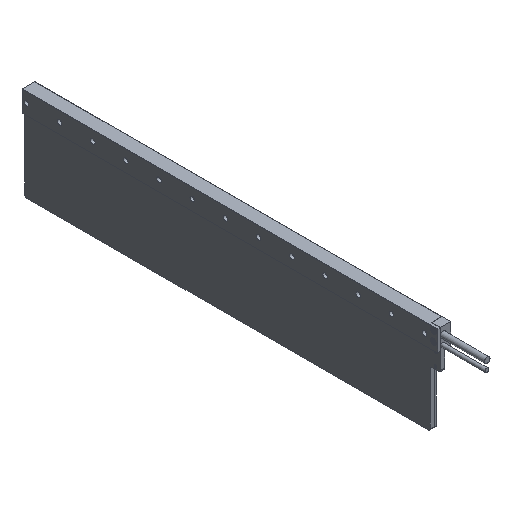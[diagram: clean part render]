
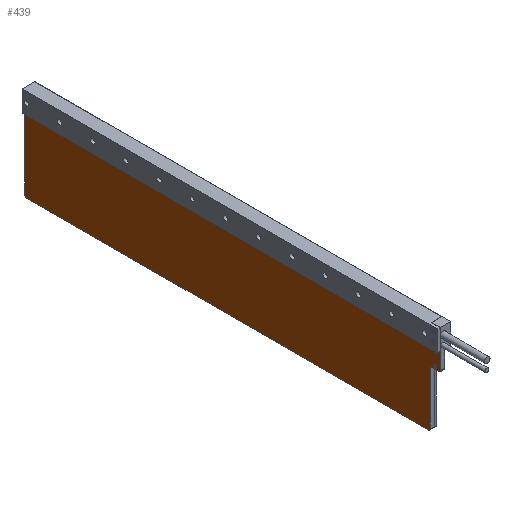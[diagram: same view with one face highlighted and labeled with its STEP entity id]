
A CAD part, isometric view. The second image highlights one B-rep face of the part: STEP entity #439.
In plain terms, the highlighted planar face has unit normal (-1, 0, 0) as drawn and (0, 0, -1) by its records, which use the part's own axes.
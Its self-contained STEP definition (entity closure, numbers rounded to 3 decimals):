
#439 = ADVANCED_FACE( '', ( #889, #890, #891 ), #892, .T. );
#889 = FACE_BOUND( '', #1574, .T. );
#890 = FACE_BOUND( '', #1575, .T. );
#891 = FACE_OUTER_BOUND( '', #1576, .T. );
#892 = PLANE( '', #1577 );
#1574 = EDGE_LOOP( '', ( #2802 ) );
#1575 = EDGE_LOOP( '', ( #2803 ) );
#1576 = EDGE_LOOP( '', ( #2804, #2805, #2806, #2807, #2808, #2809, #2810, #2811, #2812, #2813 ) );
#1577 = AXIS2_PLACEMENT_3D( '', #2814, #2815, #2816 );
#2802 = ORIENTED_EDGE( '', *, *, #4148, .F. );
#2803 = ORIENTED_EDGE( '', *, *, #4331, .F. );
#2804 = ORIENTED_EDGE( '', *, *, #4332, .T. );
#2805 = ORIENTED_EDGE( '', *, *, #4333, .T. );
#2806 = ORIENTED_EDGE( '', *, *, #4158, .F. );
#2807 = ORIENTED_EDGE( '', *, *, #4334, .F. );
#2808 = ORIENTED_EDGE( '', *, *, #4335, .F. );
#2809 = ORIENTED_EDGE( '', *, *, #4336, .T. );
#2810 = ORIENTED_EDGE( '', *, *, #4137, .F. );
#2811 = ORIENTED_EDGE( '', *, *, #4251, .F. );
#2812 = ORIENTED_EDGE( '', *, *, #4337, .T. );
#2813 = ORIENTED_EDGE( '', *, *, #4338, .T. );
#2814 = CARTESIAN_POINT( '', ( -85., 476., -4.1 ) );
#2815 = DIRECTION( '', ( 0., 0., -1. ) );
#2816 = DIRECTION( '', ( -1., 0., 0. ) );
#4137 = EDGE_CURVE( '', #6006, #6008, #6009, .T. );
#4148 = EDGE_CURVE( '', #6027, #6027, #6028, .T. );
#4158 = EDGE_CURVE( '', #6045, #6046, #6047, .T. );
#4251 = EDGE_CURVE( '', #6196, #6006, #6198, .T. );
#4331 = EDGE_CURVE( '', #6325, #6325, #6326, .T. );
#4332 = EDGE_CURVE( '', #6327, #6328, #6329, .T. );
#4333 = EDGE_CURVE( '', #6328, #6046, #6330, .T. );
#4334 = EDGE_CURVE( '', #6331, #6045, #6332, .T. );
#4335 = EDGE_CURVE( '', #6333, #6331, #6334, .T. );
#4336 = EDGE_CURVE( '', #6333, #6008, #6335, .T. );
#4337 = EDGE_CURVE( '', #6196, #6336, #6337, .T. );
#4338 = EDGE_CURVE( '', #6336, #6327, #6338, .T. );
#6006 = VERTEX_POINT( '', #7370 );
#6008 = VERTEX_POINT( '', #7373 );
#6009 = LINE( '', #7374, #7375 );
#6027 = VERTEX_POINT( '', #7419 );
#6028 = CIRCLE( '', #7420, 1.5 );
#6045 = VERTEX_POINT( '', #7461 );
#6046 = VERTEX_POINT( '', #7462 );
#6047 = LINE( '', #7463, #7464 );
#6196 = VERTEX_POINT( '', #7713 );
#6198 = LINE( '', #7716, #7717 );
#6325 = VERTEX_POINT( '', #7958 );
#6326 = CIRCLE( '', #7959, 1.5 );
#6327 = VERTEX_POINT( '', #7960 );
#6328 = VERTEX_POINT( '', #7961 );
#6329 = LINE( '', #7962, #7963 );
#6330 = CIRCLE( '', #7964, 2. );
#6331 = VERTEX_POINT( '', #7965 );
#6332 = CIRCLE( '', #7966, 2. );
#6333 = VERTEX_POINT( '', #7967 );
#6334 = LINE( '', #7968, #7969 );
#6335 = CIRCLE( '', #7970, 2. );
#6336 = VERTEX_POINT( '', #7971 );
#6337 = LINE( '', #7972, #7973 );
#6338 = CIRCLE( '', #7974, 2. );
#7370 = CARTESIAN_POINT( '', ( -85., 0., -4.1 ) );
#7373 = CARTESIAN_POINT( '', ( -66., 0., -4.1 ) );
#7374 = CARTESIAN_POINT( '', ( -85., 0., -4.1 ) );
#7375 = VECTOR( '', #9395, 1000. );
#7419 = CARTESIAN_POINT( '', ( -68.5, 6., -4.1 ) );
#7420 = AXIS2_PLACEMENT_3D( '', #9406, #9407, #9408 );
#7461 = CARTESIAN_POINT( '', ( -62., 12., -4.1 ) );
#7462 = CARTESIAN_POINT( '', ( -2., 12., -4.1 ) );
#7463 = CARTESIAN_POINT( '', ( -85., 12., -4.1 ) );
#7464 = VECTOR( '', #9420, 1000. );
#7713 = CARTESIAN_POINT( '', ( -85., 476., -4.1 ) );
#7716 = CARTESIAN_POINT( '', ( -85., 476., -4.1 ) );
#7717 = VECTOR( '', #9527, 1000. );
#7958 = CARTESIAN_POINT( '', ( -83.5, 6., -4.1 ) );
#7959 = AXIS2_PLACEMENT_3D( '', #9625, #9626, #9627 );
#7960 = CARTESIAN_POINT( '', ( 0., 474., -4.1 ) );
#7961 = CARTESIAN_POINT( '', ( 0., 14., -4.1 ) );
#7962 = CARTESIAN_POINT( '', ( 0., 476., -4.1 ) );
#7963 = VECTOR( '', #9628, 1000. );
#7964 = AXIS2_PLACEMENT_3D( '', #9629, #9630, #9631 );
#7965 = CARTESIAN_POINT( '', ( -64., 10., -4.1 ) );
#7966 = AXIS2_PLACEMENT_3D( '', #9632, #9633, #9634 );
#7967 = CARTESIAN_POINT( '', ( -64., 2., -4.1 ) );
#7968 = CARTESIAN_POINT( '', ( -64., 476., -4.1 ) );
#7969 = VECTOR( '', #9635, 1000. );
#7970 = AXIS2_PLACEMENT_3D( '', #9636, #9637, #9638 );
#7971 = CARTESIAN_POINT( '', ( -2., 476., -4.1 ) );
#7972 = CARTESIAN_POINT( '', ( -85., 476., -4.1 ) );
#7973 = VECTOR( '', #9639, 1000. );
#7974 = AXIS2_PLACEMENT_3D( '', #9640, #9641, #9642 );
#9395 = DIRECTION( '', ( 1., 0., 0. ) );
#9406 = CARTESIAN_POINT( '', ( -67., 6., -4.1 ) );
#9407 = DIRECTION( '', ( 0., 0., -1. ) );
#9408 = DIRECTION( '', ( -1., 0., 0. ) );
#9420 = DIRECTION( '', ( 1., 0., 0. ) );
#9527 = DIRECTION( '', ( 0., -1., 0. ) );
#9625 = CARTESIAN_POINT( '', ( -82., 6., -4.1 ) );
#9626 = DIRECTION( '', ( 0., 0., -1. ) );
#9627 = DIRECTION( '', ( -1., 0., 0. ) );
#9628 = DIRECTION( '', ( 0., -1., 0. ) );
#9629 = CARTESIAN_POINT( '', ( -2., 14., -4.1 ) );
#9630 = DIRECTION( '', ( 0., 0., -1. ) );
#9631 = DIRECTION( '', ( -1., 0., 0. ) );
#9632 = CARTESIAN_POINT( '', ( -62., 10., -4.1 ) );
#9633 = DIRECTION( '', ( 0., 0., -1. ) );
#9634 = DIRECTION( '', ( -1., 0., 0. ) );
#9635 = DIRECTION( '', ( 0., 1., 0. ) );
#9636 = CARTESIAN_POINT( '', ( -66., 2., -4.1 ) );
#9637 = DIRECTION( '', ( 0., 0., -1. ) );
#9638 = DIRECTION( '', ( -1., 0., 0. ) );
#9639 = DIRECTION( '', ( 1., 0., 0. ) );
#9640 = CARTESIAN_POINT( '', ( -2., 474., -4.1 ) );
#9641 = DIRECTION( '', ( 0., 0., -1. ) );
#9642 = DIRECTION( '', ( -1., 0., 0. ) );
